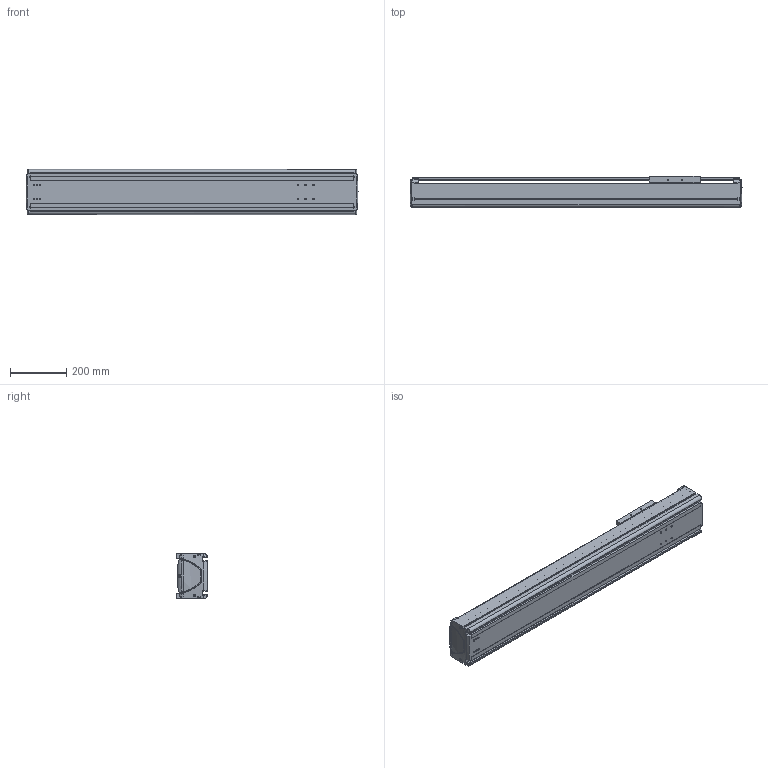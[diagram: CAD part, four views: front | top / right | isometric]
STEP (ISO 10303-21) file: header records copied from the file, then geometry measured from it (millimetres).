
FILE_DESCRIPTION((''),'2;1');
FILE_NAME('BE50G-ST-M_N-80_IGS_PRT','2017-06-18T',(' '),(''),'PRO/ENGINEER BY PARAMETRIC TECHNOLOGY CORPORATION, 2015030','PRO/ENGINEER BY PARAMETRIC TECHNOLOGY CORPORATION, 2015030','');
FILE_SCHEMA(('CONFIG_CONTROL_DESIGN'));
Length unit declared in the file: millimetre
Products named in the file (1): BE50G-ST-M_N-80_IGS_PRT
Bounding box: 1179.98 x 110 x 160 mm (x, y, z)
Volume: 5331258.7 mm3; surface area: 1809228.6 mm2
Topology: 2 solids, 81 shells, 1602 faces, 4243 edges, 2714 vertices
Faces by surface type: cylinder 688, plane 619, bspline 102, torus 87, cone 66, sphere 40
Entity records: 55029 total; most frequent: CARTESIAN_POINT 15794, ORIENTED_EDGE 8096, DIRECTION 8024, EDGE_CURVE 4206, AXIS2_PLACEMENT_3D 2984, VERTEX_POINT 2703, VECTOR 2056, LINE 2056
